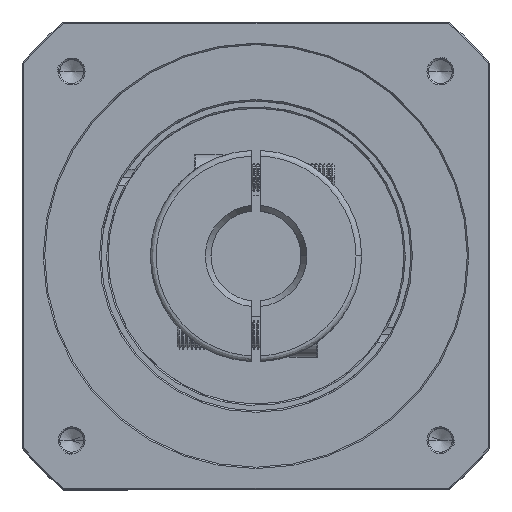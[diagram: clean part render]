
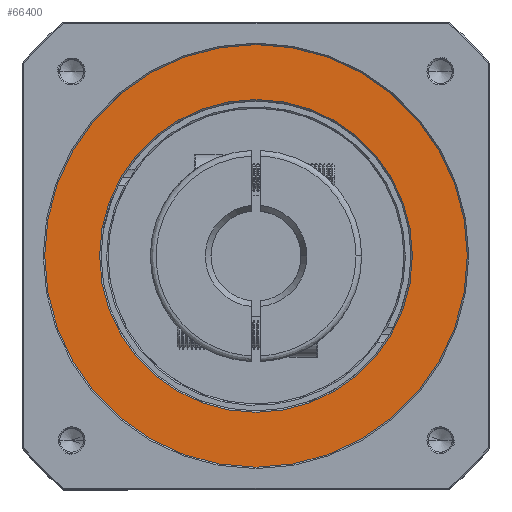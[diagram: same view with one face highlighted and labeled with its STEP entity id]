
A CAD part, top view. The second image highlights one B-rep face of the part: STEP entity #66400.
In plain terms, the highlighted planar face has unit normal (0, 0, 1).
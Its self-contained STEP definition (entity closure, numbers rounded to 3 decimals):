
#1845 = DIRECTION ( 'NONE',  ( 0., 0., 1. ) ) ;
#5946 = DIRECTION ( 'NONE',  ( 1., 0., 0. ) ) ;
#7111 = ORIENTED_EDGE ( 'NONE', *, *, #45098, .T. ) ;
#8932 = ORIENTED_EDGE ( 'NONE', *, *, #20506, .T. ) ;
#10833 = VERTEX_POINT ( 'NONE', #102510 ) ;
#12051 = CIRCLE ( 'NONE', #89455, 55.5 ) ;
#20506 = EDGE_CURVE ( 'NONE', #42417, #10833, #12051, .T. ) ;
#24717 = CARTESIAN_POINT ( 'NONE',  ( -112.907, 83.38, 22.797 ) ) ;
#31536 = EDGE_CURVE ( 'NONE', #98824, #50930, #37175, .T. ) ;
#34152 = EDGE_LOOP ( 'NONE', ( #8932, #91542 ) ) ;
#37175 = CIRCLE ( 'NONE', #67678, 75. ) ;
#37423 = PLANE ( 'NONE',  #52103 ) ;
#42417 = VERTEX_POINT ( 'NONE', #136205 ) ;
#45098 = EDGE_CURVE ( 'NONE', #50930, #98824, #126105, .T. ) ;
#45563 = FACE_BOUND ( 'NONE', #34152, .T. ) ;
#49482 = AXIS2_PLACEMENT_3D ( 'NONE', #97280, #85586, #64940 ) ;
#50930 = VERTEX_POINT ( 'NONE', #59776 ) ;
#51791 = CARTESIAN_POINT ( 'NONE',  ( -112.907, 83.38, 22.797 ) ) ;
#52103 = AXIS2_PLACEMENT_3D ( 'NONE', #24717, #133542, #68851 ) ;
#55176 = CARTESIAN_POINT ( 'NONE',  ( -112.907, 83.38, 22.797 ) ) ;
#58890 = CARTESIAN_POINT ( 'NONE',  ( -112.907, 83.38, 22.797 ) ) ;
#59776 = CARTESIAN_POINT ( 'NONE',  ( -37.907, 83.38, 22.797 ) ) ;
#60251 = DIRECTION ( 'NONE',  ( 0., 0., 1. ) ) ;
#63021 = DIRECTION ( 'NONE',  ( 1., 0., 0. ) ) ;
#64940 = DIRECTION ( 'NONE',  ( 1., 0., 0. ) ) ;
#65957 = DIRECTION ( 'NONE',  ( 1., 0., 0. ) ) ;
#66400 = ADVANCED_FACE ( 'NONE', ( #45563, #100901 ), #37423, .T. ) ;
#67224 = CARTESIAN_POINT ( 'NONE',  ( -187.907, 83.38, 22.797 ) ) ;
#67678 = AXIS2_PLACEMENT_3D ( 'NONE', #55176, #1845, #65957 ) ;
#68851 = DIRECTION ( 'NONE',  ( 1., 0., 0. ) ) ;
#72922 = DIRECTION ( 'NONE',  ( 0., 0., -1. ) ) ;
#83219 = AXIS2_PLACEMENT_3D ( 'NONE', #58890, #60251, #5946 ) ;
#85586 = DIRECTION ( 'NONE',  ( 0., 0., -1. ) ) ;
#86019 = EDGE_CURVE ( 'NONE', #10833, #42417, #121100, .T. ) ;
#87813 = ORIENTED_EDGE ( 'NONE', *, *, #31536, .T. ) ;
#89455 = AXIS2_PLACEMENT_3D ( 'NONE', #51791, #72922, #63021 ) ;
#91542 = ORIENTED_EDGE ( 'NONE', *, *, #86019, .T. ) ;
#97280 = CARTESIAN_POINT ( 'NONE',  ( -112.907, 83.38, 22.797 ) ) ;
#98824 = VERTEX_POINT ( 'NONE', #67224 ) ;
#100901 = FACE_OUTER_BOUND ( 'NONE', #133685, .T. ) ;
#102510 = CARTESIAN_POINT ( 'NONE',  ( -168.407, 83.38, 22.797 ) ) ;
#121100 = CIRCLE ( 'NONE', #49482, 55.5 ) ;
#126105 = CIRCLE ( 'NONE', #83219, 75. ) ;
#133542 = DIRECTION ( 'NONE',  ( 0., 0., 1. ) ) ;
#133685 = EDGE_LOOP ( 'NONE', ( #7111, #87813 ) ) ;
#136205 = CARTESIAN_POINT ( 'NONE',  ( -57.407, 83.38, 22.797 ) ) ;
